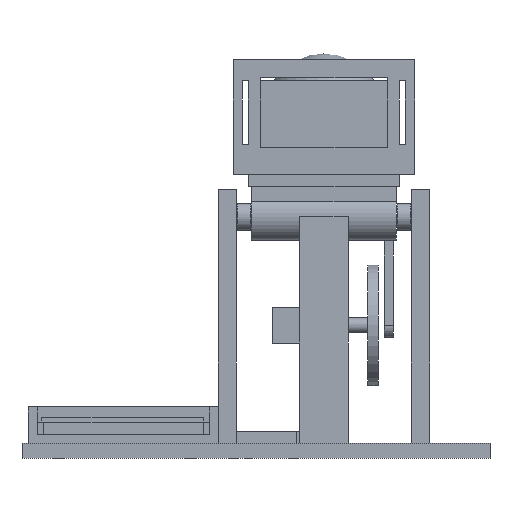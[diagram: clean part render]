
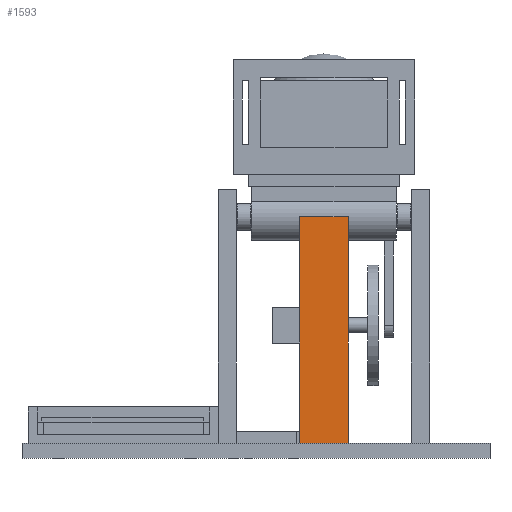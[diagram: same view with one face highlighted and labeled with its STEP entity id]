
A CAD part, left-side view. The second image highlights one B-rep face of the part: STEP entity #1593.
In plain terms, the highlighted planar face has unit normal (-1, 0, 0).
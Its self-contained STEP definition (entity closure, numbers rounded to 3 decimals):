
#204 = PLANE('',#205);
#205 = AXIS2_PLACEMENT_3D('',#206,#207,#208);
#206 = CARTESIAN_POINT('',(-85.,-55.,5.));
#207 = DIRECTION('',(0.,0.,1.));
#208 = DIRECTION('',(1.,0.,-0.));
#457 = EDGE_CURVE('',#458,#460,#462,.T.);
#458 = VERTEX_POINT('',#459);
#459 = CARTESIAN_POINT('',(-69.,-8.,5.));
#460 = VERTEX_POINT('',#461);
#461 = CARTESIAN_POINT('',(-69.,8.,5.));
#462 = SURFACE_CURVE('',#463,(#467,#474),.PCURVE_S1.);
#463 = LINE('',#464,#465);
#464 = CARTESIAN_POINT('',(-69.,-8.,5.));
#465 = VECTOR('',#466,1.);
#466 = DIRECTION('',(-0.,1.,0.));
#467 = PCURVE('',#204,#468);
#468 = DEFINITIONAL_REPRESENTATION('',(#469),#473);
#469 = LINE('',#470,#471);
#470 = CARTESIAN_POINT('',(16.,47.));
#471 = VECTOR('',#472,1.);
#472 = DIRECTION('',(0.,1.));
#473 = ( GEOMETRIC_REPRESENTATION_CONTEXT(2) 
PARAMETRIC_REPRESENTATION_CONTEXT() REPRESENTATION_CONTEXT('2D SPACE',''
  ) );
#474 = PCURVE('',#475,#480);
#475 = PLANE('',#476);
#476 = AXIS2_PLACEMENT_3D('',#477,#478,#479);
#477 = CARTESIAN_POINT('',(-69.,-8.,5.));
#478 = DIRECTION('',(1.,0.,-0.));
#479 = DIRECTION('',(0.,0.,1.));
#480 = DEFINITIONAL_REPRESENTATION('',(#481),#485);
#481 = LINE('',#482,#483);
#482 = CARTESIAN_POINT('',(0.,0.));
#483 = VECTOR('',#484,1.);
#484 = DIRECTION('',(0.,-1.));
#485 = ( GEOMETRIC_REPRESENTATION_CONTEXT(2) 
PARAMETRIC_REPRESENTATION_CONTEXT() REPRESENTATION_CONTEXT('2D SPACE',''
  ) );
#503 = PLANE('',#504);
#504 = AXIS2_PLACEMENT_3D('',#505,#506,#507);
#505 = CARTESIAN_POINT('',(-69.,8.,5.));
#506 = DIRECTION('',(-0.,1.,0.));
#507 = DIRECTION('',(0.,0.,1.));
#557 = PLANE('',#558);
#558 = AXIS2_PLACEMENT_3D('',#559,#560,#561);
#559 = CARTESIAN_POINT('',(-69.,-8.,5.));
#560 = DIRECTION('',(-0.,1.,0.));
#561 = DIRECTION('',(0.,0.,1.));
#1593 = ADVANCED_FACE('',(#1594),#475,.F.);
#1594 = FACE_BOUND('',#1595,.F.);
#1595 = EDGE_LOOP('',(#1596,#1619,#1620,#1643));
#1596 = ORIENTED_EDGE('',*,*,#1597,.F.);
#1597 = EDGE_CURVE('',#458,#1598,#1600,.T.);
#1598 = VERTEX_POINT('',#1599);
#1599 = CARTESIAN_POINT('',(-69.,-8.,80.));
#1600 = SURFACE_CURVE('',#1601,(#1605,#1612),.PCURVE_S1.);
#1601 = LINE('',#1602,#1603);
#1602 = CARTESIAN_POINT('',(-69.,-8.,5.));
#1603 = VECTOR('',#1604,1.);
#1604 = DIRECTION('',(0.,0.,1.));
#1605 = PCURVE('',#475,#1606);
#1606 = DEFINITIONAL_REPRESENTATION('',(#1607),#1611);
#1607 = LINE('',#1608,#1609);
#1608 = CARTESIAN_POINT('',(0.,0.));
#1609 = VECTOR('',#1610,1.);
#1610 = DIRECTION('',(1.,0.));
#1611 = ( GEOMETRIC_REPRESENTATION_CONTEXT(2) 
PARAMETRIC_REPRESENTATION_CONTEXT() REPRESENTATION_CONTEXT('2D SPACE',''
  ) );
#1612 = PCURVE('',#557,#1613);
#1613 = DEFINITIONAL_REPRESENTATION('',(#1614),#1618);
#1614 = LINE('',#1615,#1616);
#1615 = CARTESIAN_POINT('',(0.,0.));
#1616 = VECTOR('',#1617,1.);
#1617 = DIRECTION('',(1.,0.));
#1618 = ( GEOMETRIC_REPRESENTATION_CONTEXT(2) 
PARAMETRIC_REPRESENTATION_CONTEXT() REPRESENTATION_CONTEXT('2D SPACE',''
  ) );
#1619 = ORIENTED_EDGE('',*,*,#457,.T.);
#1620 = ORIENTED_EDGE('',*,*,#1621,.T.);
#1621 = EDGE_CURVE('',#460,#1622,#1624,.T.);
#1622 = VERTEX_POINT('',#1623);
#1623 = CARTESIAN_POINT('',(-69.,8.,80.));
#1624 = SURFACE_CURVE('',#1625,(#1629,#1636),.PCURVE_S1.);
#1625 = LINE('',#1626,#1627);
#1626 = CARTESIAN_POINT('',(-69.,8.,5.));
#1627 = VECTOR('',#1628,1.);
#1628 = DIRECTION('',(0.,0.,1.));
#1629 = PCURVE('',#475,#1630);
#1630 = DEFINITIONAL_REPRESENTATION('',(#1631),#1635);
#1631 = LINE('',#1632,#1633);
#1632 = CARTESIAN_POINT('',(0.,-16.));
#1633 = VECTOR('',#1634,1.);
#1634 = DIRECTION('',(1.,0.));
#1635 = ( GEOMETRIC_REPRESENTATION_CONTEXT(2) 
PARAMETRIC_REPRESENTATION_CONTEXT() REPRESENTATION_CONTEXT('2D SPACE',''
  ) );
#1636 = PCURVE('',#503,#1637);
#1637 = DEFINITIONAL_REPRESENTATION('',(#1638),#1642);
#1638 = LINE('',#1639,#1640);
#1639 = CARTESIAN_POINT('',(0.,0.));
#1640 = VECTOR('',#1641,1.);
#1641 = DIRECTION('',(1.,0.));
#1642 = ( GEOMETRIC_REPRESENTATION_CONTEXT(2) 
PARAMETRIC_REPRESENTATION_CONTEXT() REPRESENTATION_CONTEXT('2D SPACE',''
  ) );
#1643 = ORIENTED_EDGE('',*,*,#1644,.F.);
#1644 = EDGE_CURVE('',#1598,#1622,#1645,.T.);
#1645 = SURFACE_CURVE('',#1646,(#1650,#1657),.PCURVE_S1.);
#1646 = LINE('',#1647,#1648);
#1647 = CARTESIAN_POINT('',(-69.,-8.,80.));
#1648 = VECTOR('',#1649,1.);
#1649 = DIRECTION('',(-0.,1.,0.));
#1650 = PCURVE('',#475,#1651);
#1651 = DEFINITIONAL_REPRESENTATION('',(#1652),#1656);
#1652 = LINE('',#1653,#1654);
#1653 = CARTESIAN_POINT('',(75.,0.));
#1654 = VECTOR('',#1655,1.);
#1655 = DIRECTION('',(0.,-1.));
#1656 = ( GEOMETRIC_REPRESENTATION_CONTEXT(2) 
PARAMETRIC_REPRESENTATION_CONTEXT() REPRESENTATION_CONTEXT('2D SPACE',''
  ) );
#1657 = PCURVE('',#1658,#1663);
#1658 = PLANE('',#1659);
#1659 = AXIS2_PLACEMENT_3D('',#1660,#1661,#1662);
#1660 = CARTESIAN_POINT('',(-69.,-8.,80.));
#1661 = DIRECTION('',(0.,0.,1.));
#1662 = DIRECTION('',(1.,0.,-0.));
#1663 = DEFINITIONAL_REPRESENTATION('',(#1664),#1668);
#1664 = LINE('',#1665,#1666);
#1665 = CARTESIAN_POINT('',(0.,0.));
#1666 = VECTOR('',#1667,1.);
#1667 = DIRECTION('',(0.,1.));
#1668 = ( GEOMETRIC_REPRESENTATION_CONTEXT(2) 
PARAMETRIC_REPRESENTATION_CONTEXT() REPRESENTATION_CONTEXT('2D SPACE',''
  ) );
